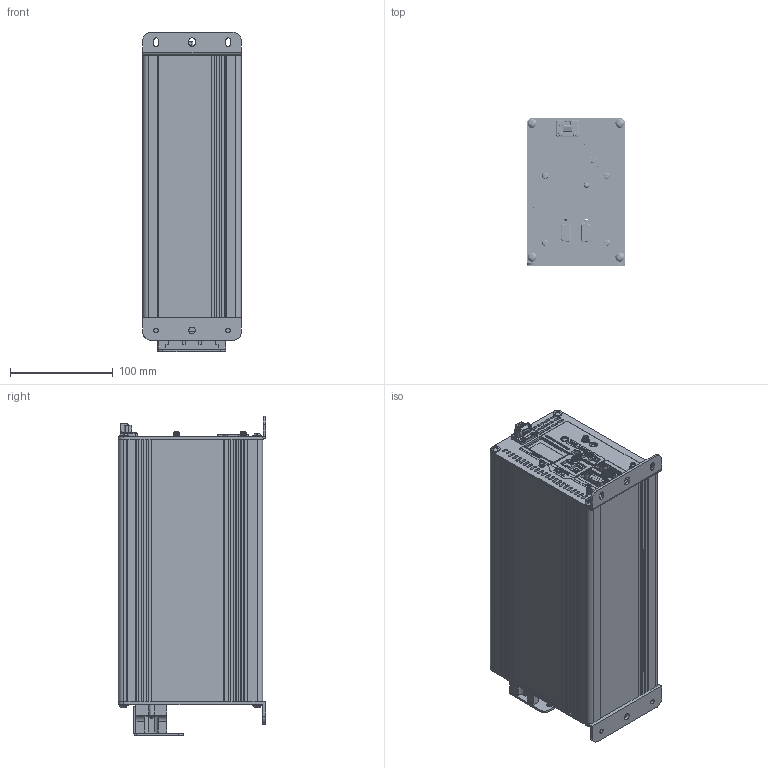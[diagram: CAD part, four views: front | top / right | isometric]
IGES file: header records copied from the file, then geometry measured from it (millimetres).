
Global section: file name: DV255COM_OLED_2026.07.07; native system: Autodesk Inventor 2026; preprocessor: unknown; author: Administrator; date: 20260707.115032; units: millimetre
Bounding box: 95.5 x 142.98 x 309.89 mm (x, y, z)
Volume: 542435.3 mm3; surface area: 391526.3 mm2
Topology: 9 solids, 9 shells, 5184 faces, 14243 edges, 9464 vertices
Faces by surface type: bspline 5184
